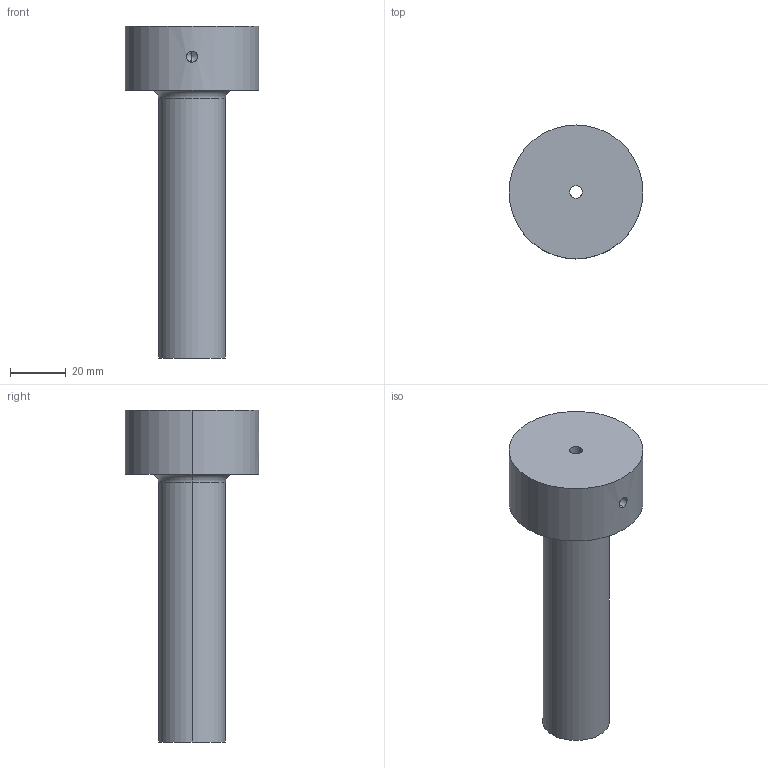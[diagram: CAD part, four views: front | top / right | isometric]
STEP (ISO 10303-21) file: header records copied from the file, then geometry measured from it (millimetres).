
FILE_DESCRIPTION (( 'STEP AP214' ), '1' );
FILE_NAME ('IMC-I3-24x96-4,5-1,5.STEP', '2023-01-10T10:54:47', ( '' ), ( '' ), 'SwSTEP 2.0', 'SolidWorks 2019', '' );
FILE_SCHEMA (( 'AUTOMOTIVE_DESIGN' ));
Length unit declared in the file: millimetre
Products named in the file (1): IMC-I3-24x96-4,5-1,5
Bounding box: 48 x 48 x 119 mm (x, y, z)
Volume: 79318.5 mm3; surface area: 17128.9 mm2
Topology: 1 solids, 1 shells, 19 faces, 42 edges, 24 vertices
Faces by surface type: cylinder 8, cone 6, plane 3, torus 2
Entity records: 590 total; most frequent: CARTESIAN_POINT 136, DIRECTION 98, ORIENTED_EDGE 76, AXIS2_PLACEMENT_3D 42, EDGE_CURVE 38, EDGE_LOOP 24, VERTEX_POINT 24, CIRCLE 22
